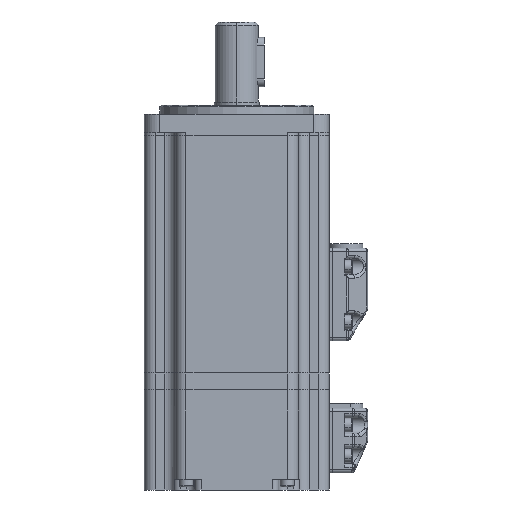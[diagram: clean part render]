
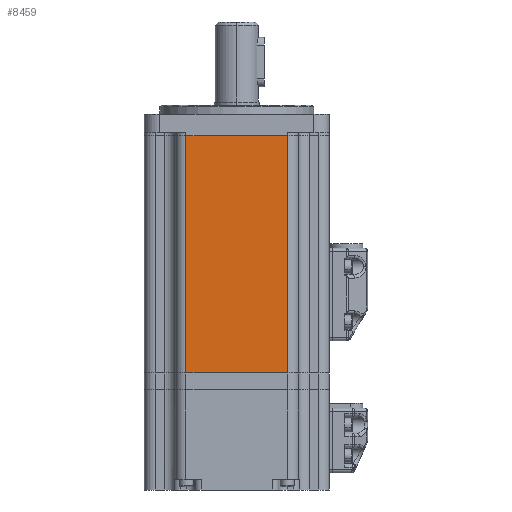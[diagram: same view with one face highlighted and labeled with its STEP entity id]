
A CAD part, front view. The second image highlights one B-rep face of the part: STEP entity #8459.
In plain terms, the highlighted planar face has unit normal (0, -1, 0).
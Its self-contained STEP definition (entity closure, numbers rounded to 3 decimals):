
#68 = VECTOR ( 'NONE', #5797, 1000. ) ;
#3691 = DIRECTION ( 'NONE',  ( 0., 0., 1. ) ) ;
#4838 = ORIENTED_EDGE ( 'NONE', *, *, #40654, .T. ) ;
#4912 = ORIENTED_EDGE ( 'NONE', *, *, #30483, .F. ) ;
#5202 = ORIENTED_EDGE ( 'NONE', *, *, #39846, .T. ) ;
#5343 = LINE ( 'NONE', #47209, #23106 ) ;
#5797 = DIRECTION ( 'NONE',  ( -1., 0., 0. ) ) ;
#8459 = ADVANCED_FACE ( 'NONE', ( #52257 ), #12910, .F. ) ;
#10369 = LINE ( 'NONE', #28817, #30672 ) ;
#10933 = VERTEX_POINT ( 'NONE', #27435 ) ;
#12566 = CARTESIAN_POINT ( 'NONE',  ( -20., -30., -77. ) ) ;
#12910 = PLANE ( 'NONE',  #14826 ) ;
#13107 = ORIENTED_EDGE ( 'NONE', *, *, #34598, .T. ) ;
#14826 = AXIS2_PLACEMENT_3D ( 'NONE', #12566, #49554, #25206 ) ;
#16655 = VECTOR ( 'NONE', #3691, 1000. ) ;
#18853 = CARTESIAN_POINT ( 'NONE',  ( 16.5, -30., -77. ) ) ;
#22936 = LINE ( 'NONE', #26004, #68 ) ;
#23106 = VECTOR ( 'NONE', #49542, 1000. ) ;
#24078 = CARTESIAN_POINT ( 'NONE',  ( 16.5, -30., -77. ) ) ;
#25206 = DIRECTION ( 'NONE',  ( 0., 0., 1. ) ) ;
#26004 = CARTESIAN_POINT ( 'NONE',  ( -20., -30., 0. ) ) ;
#26173 = LINE ( 'NONE', #24078, #16655 ) ;
#27435 = CARTESIAN_POINT ( 'NONE',  ( -16.5, -30., 0. ) ) ;
#28813 = VERTEX_POINT ( 'NONE', #34559 ) ;
#28817 = CARTESIAN_POINT ( 'NONE',  ( -20., -30., -77. ) ) ;
#30483 = EDGE_CURVE ( 'NONE', #35751, #34130, #10369, .T. ) ;
#30672 = VECTOR ( 'NONE', #32917, 1000. ) ;
#32414 = EDGE_LOOP ( 'NONE', ( #4838, #13107, #4912, #5202 ) ) ;
#32917 = DIRECTION ( 'NONE',  ( -1., 0., 0. ) ) ;
#34130 = VERTEX_POINT ( 'NONE', #38445 ) ;
#34559 = CARTESIAN_POINT ( 'NONE',  ( 16.5, -30., 0. ) ) ;
#34598 = EDGE_CURVE ( 'NONE', #10933, #34130, #5343, .T. ) ;
#35751 = VERTEX_POINT ( 'NONE', #18853 ) ;
#38445 = CARTESIAN_POINT ( 'NONE',  ( -16.5, -30., -77. ) ) ;
#39846 = EDGE_CURVE ( 'NONE', #35751, #28813, #26173, .T. ) ;
#40654 = EDGE_CURVE ( 'NONE', #28813, #10933, #22936, .T. ) ;
#47209 = CARTESIAN_POINT ( 'NONE',  ( -16.5, -30., -77. ) ) ;
#49542 = DIRECTION ( 'NONE',  ( 0., 0., -1. ) ) ;
#49554 = DIRECTION ( 'NONE',  ( 0., 1., 0. ) ) ;
#52257 = FACE_OUTER_BOUND ( 'NONE', #32414, .T. ) ;
